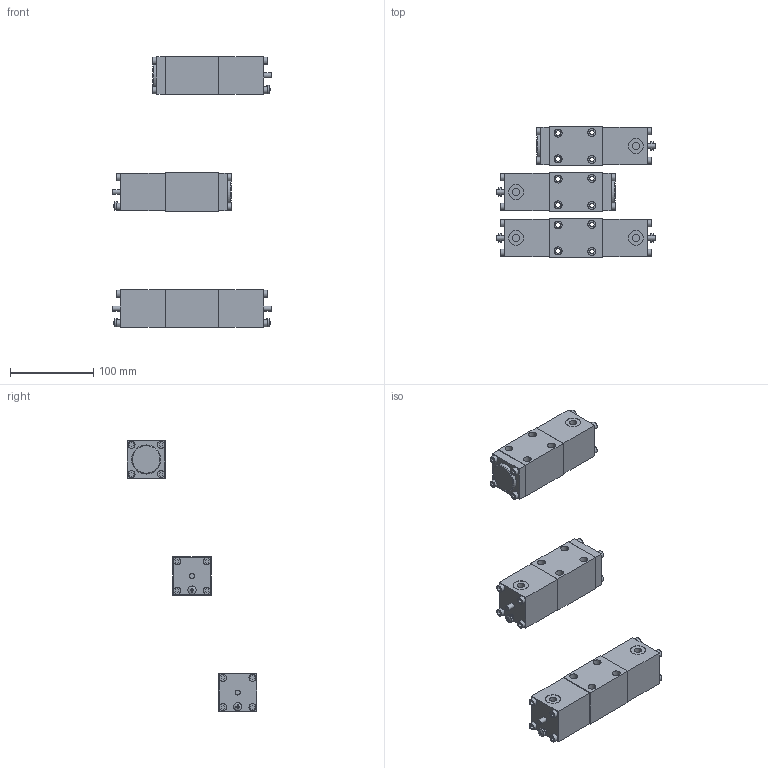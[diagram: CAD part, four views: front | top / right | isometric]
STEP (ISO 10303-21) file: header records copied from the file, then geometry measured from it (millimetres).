
FILE_DESCRIPTION(('Bauteilbeschreibung','HiCAD-Model','HiCAD-STEP-TRANSLATION','Bauteilbeschreibung'),'2;1');
FILE_NAME('P:/HICADDATEN/STEP_DXF/AK4_6.STP','2006-08-09T17:04:18+00:00',('Konstrukteur'),('Konstrukteur Firma GmbH'),'HiCAD3 V1210 STEP 1.6.2005','HiCAD3 V1210','confidential');
FILE_SCHEMA(('AUTOMOTIVE_DESIGN { 1 2 10303 214 0 1 1 1 }'));
Length unit declared in the file: millimetre
Products named in the file (52): AK4_6; AK4D6; D2F9A91C; AB294FE8; AB6C5656; AB6C56560; IN6KTM5; IN6KTM50; IN6KTM51; IN6KTM52; IN6KTM53; AB6C56561; AB6C56562; IN6KTM54; IN6KTM55; IN6KTM56; IN6KTM57; IN6KTM58; AK4Z6_A; A0F9CD22; AB294FE80; AB6C56563; AB6C56564; IN6KTM59; IN6KTM510; IN6KTM511; IN6KTM512; IN6KTM513; F77E93F1; F77E93F10; IN6KTM514; IN6KTM515; IN6KTM516; IN6KTM517; IN6KTM518; AK4Z6_B; A624C317; AB294FE81; AB6C56565; AB6C56566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
Assembly tree (51 placements, depth 6):
  AK4_6
    AK4D6
      D2F9A91C
        AB294FE8
        AB6C5656
        AB6C56560
          IN6KTM5
            IN6KTM50
            IN6KTM51
            IN6KTM52
            IN6KTM53
        AB6C56561
        AB6C56562
          IN6KTM54
            IN6KTM55
            IN6KTM56
            IN6KTM57
            IN6KTM58
    AK4Z6_A
      A0F9CD22
        AB294FE80
        AB6C56563
        AB6C56564
          IN6KTM59
            IN6KTM510
            IN6KTM511
            IN6KTM512
            IN6KTM513
        F77E93F1
        F77E93F10
          IN6KTM514
            IN6KTM515
            IN6KTM516
            IN6KTM517
            IN6KTM518
    AK4Z6_B
      A624C317
        AB294FE81
        AB6C56565
        AB6C56566
          IN6KTM519
            IN6KTM520
            IN6KTM521
            IN6KTM522
            IN6KTM523
        F77E93F11
        F77E93F12
          IN6KTM524
            IN6KTM525
            IN6KTM526
            IN6KTM527
            IN6KTM528
Bounding box: 191 x 156 x 326 mm (x, y, z)
Volume: 854335.9 mm3; surface area: 154684.2 mm2
Topology: 33 solids, 33 shells, 584 faces, 1276 edges, 844 vertices
Faces by surface type: plane 432, cylinder 146, sphere 4, cone 2
Full cylindrical faces by diameter (mm): 5 x28, 5.5 x36, 6 x4, 8.5 x24, 8.7 x4, 9.5 x12, 10 x4, 12.5 x12, 18 x4, 35 x2
Entity records: 26671 total; most frequent: CARTESIAN_POINT 3254, DIRECTION 2758, ORIENTED_EDGE 2100, COLOUR_RGB 1667, PRESENTATION_STYLE_ASSIGNMENT 1667, OVER_RIDING_STYLED_ITEM 1634, CURVE_STYLE 1050, DRAUGHTING_PRE_DEFINED_CURVE_FONT 1050
